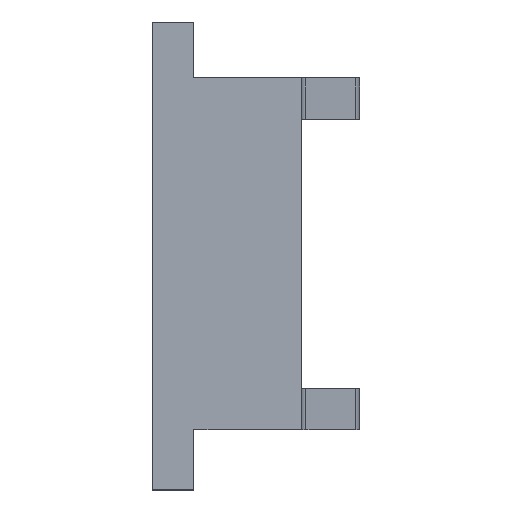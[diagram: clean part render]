
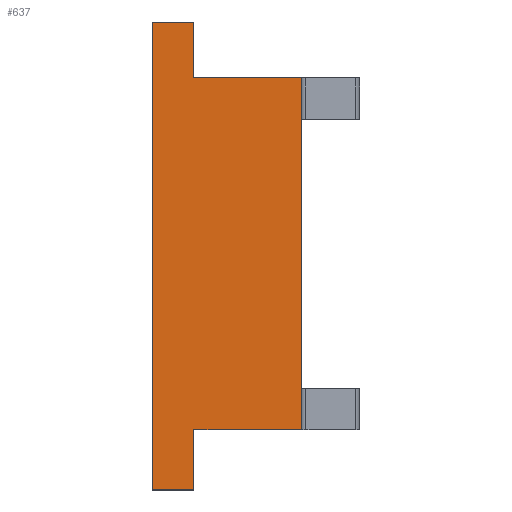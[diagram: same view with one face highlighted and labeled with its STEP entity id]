
A CAD part, left-side view. The second image highlights one B-rep face of the part: STEP entity #637.
In plain terms, the highlighted planar face has unit normal (-1, 0, 0).
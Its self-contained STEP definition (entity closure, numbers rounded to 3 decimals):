
#40 = FACE_OUTER_BOUND ( 'NONE', #2589, .T. ) ;
#63 = ORIENTED_EDGE ( 'NONE', *, *, #1068, .F. ) ;
#91 = VECTOR ( 'NONE', #1577, 1000. ) ;
#140 = VERTEX_POINT ( 'NONE', #1197 ) ;
#159 = VECTOR ( 'NONE', #990, 1000. ) ;
#236 = CARTESIAN_POINT ( 'NONE',  ( 0., 0., -8.5 ) ) ;
#357 = VERTEX_POINT ( 'NONE', #1562 ) ;
#425 = CARTESIAN_POINT ( 'NONE',  ( 0., 0., -8.5 ) ) ;
#443 = EDGE_CURVE ( 'NONE', #357, #989, #715, .T. ) ;
#460 = CARTESIAN_POINT ( 'NONE',  ( 0., 0., -9.95 ) ) ;
#466 = AXIS2_PLACEMENT_3D ( 'NONE', #425, #1064, #2499 ) ;
#539 = LINE ( 'NONE', #619, #1599 ) ;
#619 = CARTESIAN_POINT ( 'NONE',  ( 0., -2.6, -8.5 ) ) ;
#637 = ADVANCED_FACE ( 'NONE', ( #40 ), #2305, .F. ) ;
#691 = VERTEX_POINT ( 'NONE', #1715 ) ;
#705 = EDGE_CURVE ( 'NONE', #803, #1337, #975, .T. ) ;
#715 = LINE ( 'NONE', #2238, #159 ) ;
#803 = VERTEX_POINT ( 'NONE', #460 ) ;
#816 = LINE ( 'NONE', #2636, #2508 ) ;
#865 = DIRECTION ( 'NONE',  ( 0., 0., 1. ) ) ;
#910 = DIRECTION ( 'NONE',  ( 0., -1., 0. ) ) ;
#954 = ORIENTED_EDGE ( 'NONE', *, *, #1833, .T. ) ;
#975 = LINE ( 'NONE', #1725, #2666 ) ;
#989 = VERTEX_POINT ( 'NONE', #2637 ) ;
#990 = DIRECTION ( 'NONE',  ( 0., 0., 1. ) ) ;
#1013 = VERTEX_POINT ( 'NONE', #1850 ) ;
#1064 = DIRECTION ( 'NONE',  ( 1., 0., 0. ) ) ;
#1068 = EDGE_CURVE ( 'NONE', #989, #1681, #1660, .T. ) ;
#1076 = LINE ( 'NONE', #1366, #91 ) ;
#1090 = VECTOR ( 'NONE', #1459, 1000. ) ;
#1096 = EDGE_CURVE ( 'NONE', #1013, #140, #539, .T. ) ;
#1107 = ORIENTED_EDGE ( 'NONE', *, *, #443, .F. ) ;
#1197 = CARTESIAN_POINT ( 'NONE',  ( 0., -2.6, 0. ) ) ;
#1223 = DIRECTION ( 'NONE',  ( 0., 0., 1. ) ) ;
#1337 = VERTEX_POINT ( 'NONE', #236 ) ;
#1351 = ORIENTED_EDGE ( 'NONE', *, *, #2638, .F. ) ;
#1366 = CARTESIAN_POINT ( 'NONE',  ( 0., 0., -8.5 ) ) ;
#1459 = DIRECTION ( 'NONE',  ( 0., -1., 0. ) ) ;
#1562 = CARTESIAN_POINT ( 'NONE',  ( 0., 1., -9.95 ) ) ;
#1577 = DIRECTION ( 'NONE',  ( 0., 1., 0. ) ) ;
#1599 = VECTOR ( 'NONE', #2283, 1000. ) ;
#1660 = LINE ( 'NONE', #1661, #1090 ) ;
#1661 = CARTESIAN_POINT ( 'NONE',  ( 0., 1., 1.35 ) ) ;
#1681 = VERTEX_POINT ( 'NONE', #2387 ) ;
#1715 = CARTESIAN_POINT ( 'NONE',  ( 0., 0., 0. ) ) ;
#1725 = CARTESIAN_POINT ( 'NONE',  ( 0., 0., 1.35 ) ) ;
#1728 = DIRECTION ( 'NONE',  ( 0., 1., 0. ) ) ;
#1731 = VECTOR ( 'NONE', #1728, 1000. ) ;
#1777 = LINE ( 'NONE', #2359, #2307 ) ;
#1833 = EDGE_CURVE ( 'NONE', #691, #1681, #816, .T. ) ;
#1850 = CARTESIAN_POINT ( 'NONE',  ( 0., -2.6, -8.5 ) ) ;
#2233 = ORIENTED_EDGE ( 'NONE', *, *, #2579, .T. ) ;
#2238 = CARTESIAN_POINT ( 'NONE',  ( 0., 1., 1.35 ) ) ;
#2271 = LINE ( 'NONE', #2512, #1731 ) ;
#2283 = DIRECTION ( 'NONE',  ( 0., 0., 1. ) ) ;
#2286 = EDGE_CURVE ( 'NONE', #140, #691, #2271, .T. ) ;
#2305 = PLANE ( 'NONE',  #466 ) ;
#2307 = VECTOR ( 'NONE', #910, 1000. ) ;
#2355 = ORIENTED_EDGE ( 'NONE', *, *, #1096, .T. ) ;
#2359 = CARTESIAN_POINT ( 'NONE',  ( 0., 1., -9.95 ) ) ;
#2387 = CARTESIAN_POINT ( 'NONE',  ( 0., 0., 1.35 ) ) ;
#2458 = ORIENTED_EDGE ( 'NONE', *, *, #2286, .T. ) ;
#2499 = DIRECTION ( 'NONE',  ( 0., 0., -1. ) ) ;
#2508 = VECTOR ( 'NONE', #1223, 1000. ) ;
#2512 = CARTESIAN_POINT ( 'NONE',  ( 0., 0., 0. ) ) ;
#2579 = EDGE_CURVE ( 'NONE', #357, #803, #1777, .T. ) ;
#2589 = EDGE_LOOP ( 'NONE', ( #2458, #954, #63, #1107, #2233, #2653, #1351, #2355 ) ) ;
#2636 = CARTESIAN_POINT ( 'NONE',  ( 0., 0., 1.35 ) ) ;
#2637 = CARTESIAN_POINT ( 'NONE',  ( 0., 1., 1.35 ) ) ;
#2638 = EDGE_CURVE ( 'NONE', #1013, #1337, #1076, .T. ) ;
#2653 = ORIENTED_EDGE ( 'NONE', *, *, #705, .T. ) ;
#2666 = VECTOR ( 'NONE', #865, 1000. ) ;
